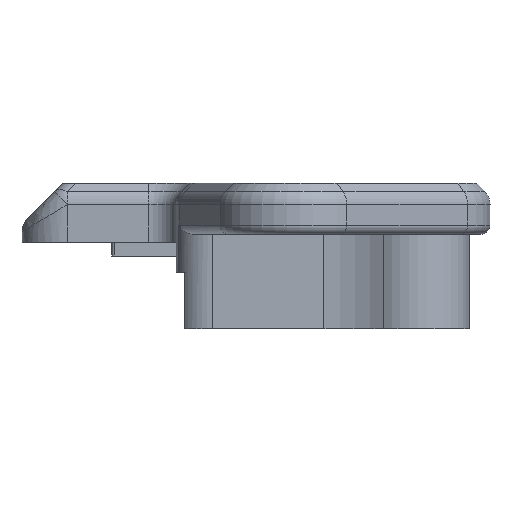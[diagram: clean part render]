
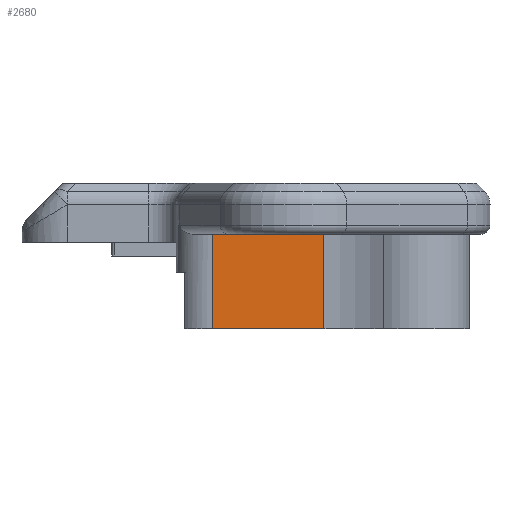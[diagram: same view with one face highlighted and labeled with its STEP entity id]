
A CAD part, front view. The second image highlights one B-rep face of the part: STEP entity #2680.
In plain terms, the highlighted planar face has unit normal (0, -1, 0).
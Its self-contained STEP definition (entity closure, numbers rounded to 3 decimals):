
#278=FACE_OUTER_BOUND('',#443,.T.);
#443=EDGE_LOOP('',(#2440,#2441,#2442,#2443));
#649=LINE('',#4785,#873);
#666=LINE('',#4841,#890);
#667=LINE('',#4845,#891);
#668=LINE('',#4847,#892);
#873=VECTOR('',#3738,10.);
#890=VECTOR('',#3807,10.);
#891=VECTOR('',#3812,10.);
#892=VECTOR('',#3815,10.);
#1268=VERTEX_POINT('',#4782);
#1269=VERTEX_POINT('',#4784);
#1282=VERTEX_POINT('',#4839);
#1283=VERTEX_POINT('',#4843);
#1642=EDGE_CURVE('',#1268,#1269,#649,.T.);
#1670=EDGE_CURVE('',#1268,#1282,#666,.T.);
#1672=EDGE_CURVE('',#1283,#1282,#667,.T.);
#1673=EDGE_CURVE('',#1283,#1269,#668,.T.);
#2440=ORIENTED_EDGE('',*,*,#1642,.F.);
#2441=ORIENTED_EDGE('',*,*,#1670,.T.);
#2442=ORIENTED_EDGE('',*,*,#1672,.F.);
#2443=ORIENTED_EDGE('',*,*,#1673,.T.);
#2529=PLANE('',#2994);
#2680=ADVANCED_FACE('',(#278),#2529,.T.);
#2994=AXIS2_PLACEMENT_3D('',#4846,#3813,#3814);
#3738=DIRECTION('',(-1.,0.,0.));
#3807=DIRECTION('',(0.,0.,1.));
#3812=DIRECTION('',(1.,0.,0.));
#3813=DIRECTION('center_axis',(0.,-1.,0.));
#3814=DIRECTION('ref_axis',(1.,0.,0.));
#3815=DIRECTION('',(0.,0.,-1.));
#4782=CARTESIAN_POINT('',(293.282,163.44,77.7));
#4784=CARTESIAN_POINT('',(281.026,163.44,77.7));
#4785=CARTESIAN_POINT('',(287.044,163.44,77.7));
#4839=CARTESIAN_POINT('',(293.282,163.44,88.1));
#4841=CARTESIAN_POINT('',(293.282,163.44,77.7));
#4843=CARTESIAN_POINT('',(281.026,163.44,88.1));
#4845=CARTESIAN_POINT('',(297.954,163.44,88.1));
#4846=CARTESIAN_POINT('Origin',(278.063,163.44,77.7));
#4847=CARTESIAN_POINT('',(281.026,163.44,77.7));
